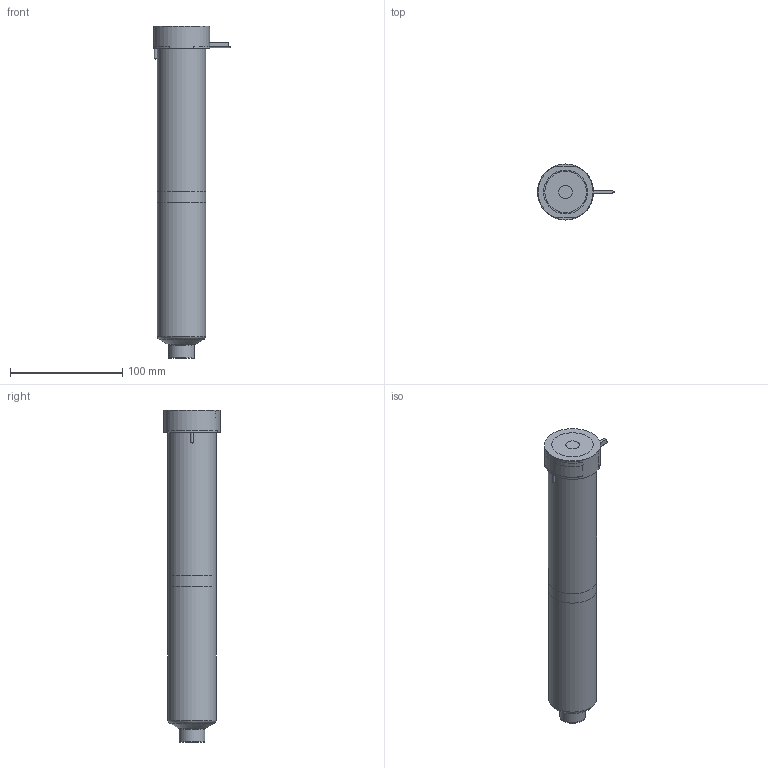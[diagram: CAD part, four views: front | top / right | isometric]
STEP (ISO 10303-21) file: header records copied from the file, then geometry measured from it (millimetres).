
FILE_DESCRIPTION(/* description */ (''),/* implementation_level */ '2;1');
FILE_NAME(/* name */ 'BXTVBE-BXIVBE-BXOVBE27275_200C',/* time_stamp */ '2013-12-09T17:18:23+13:00',/* author */ (''),/* organization */ (''),/* preprocessor_version */ 'ST-DEVELOPER v9',/* originating_system */ 'UGS - NX 4.0',/* authorisation */ '');
FILE_SCHEMA (('CONFIG_CONTROL_DESIGN'));
Length unit declared in the file: millimetre
Products named in the file (1): matt9B39ifkb
Bounding box: 68.6 x 50 x 295.73 mm (x, y, z)
Volume: 773693.4 mm3; surface area: 87960.7 mm2
Topology: 6 solids, 6 shells, 75 faces, 150 edges, 97 vertices
Faces by surface type: plane 33, cylinder 23, cone 10, torus 8, bspline 1
Full cylindrical faces by diameter (mm): 1 x3, 2.5 x2, 5 x1, 12 x1, 22.61 x1, 23.01 x2, 27.5 x1, 38.1 x1, 43 x2, 50 x1
Entity records: 2007 total; most frequent: CARTESIAN_POINT 484, DIRECTION 316, ORIENTED_EDGE 232, AXIS2_PLACEMENT_3D 139, EDGE_CURVE 116, EDGE_LOOP 112, VERTEX_POINT 91, ADVANCED_FACE 75
